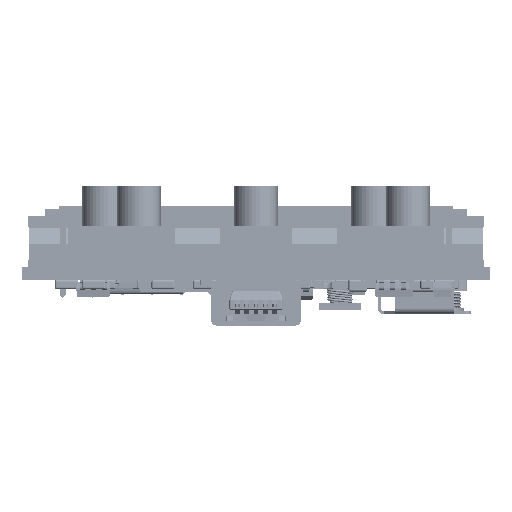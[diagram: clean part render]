
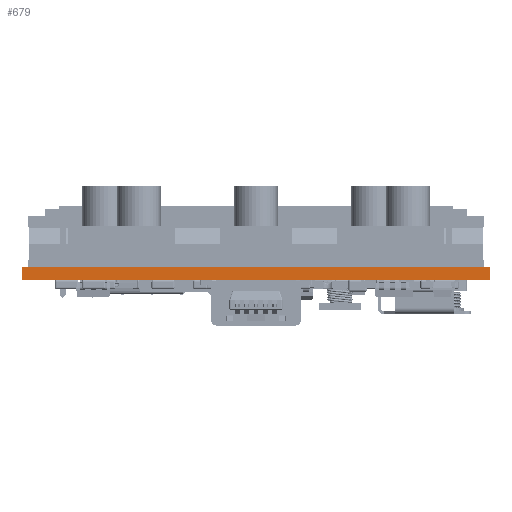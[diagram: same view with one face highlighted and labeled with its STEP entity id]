
A CAD part, front view. The second image highlights one B-rep face of the part: STEP entity #679.
In plain terms, the highlighted planar face has unit normal (0, -1, 0).
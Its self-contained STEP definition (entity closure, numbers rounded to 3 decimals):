
#416 = EDGE_CURVE('',#417,#419,#421,.T.);
#417 = VERTEX_POINT('',#418);
#418 = CARTESIAN_POINT('',(40.,0.,0.));
#419 = VERTEX_POINT('',#420);
#420 = CARTESIAN_POINT('',(40.,0.,1.102));
#421 = SURFACE_CURVE('',#422,(#426,#438),.PCURVE_S1.);
#422 = LINE('',#423,#424);
#423 = CARTESIAN_POINT('',(40.,0.,0.));
#424 = VECTOR('',#425,1.);
#425 = DIRECTION('',(0.,0.,1.));
#426 = PCURVE('',#427,#432);
#427 = PLANE('',#428);
#428 = AXIS2_PLACEMENT_3D('',#429,#430,#431);
#429 = CARTESIAN_POINT('',(40.,0.,0.));
#430 = DIRECTION('',(-1.,0.,0.));
#431 = DIRECTION('',(0.,1.,0.));
#432 = DEFINITIONAL_REPRESENTATION('',(#433),#437);
#433 = LINE('',#434,#435);
#434 = CARTESIAN_POINT('',(0.,0.));
#435 = VECTOR('',#436,1.);
#436 = DIRECTION('',(0.,-1.));
#437 = ( GEOMETRIC_REPRESENTATION_CONTEXT(2) 
PARAMETRIC_REPRESENTATION_CONTEXT() REPRESENTATION_CONTEXT('2D SPACE',''
  ) );
#438 = PCURVE('',#439,#444);
#439 = PLANE('',#440);
#440 = AXIS2_PLACEMENT_3D('',#441,#442,#443);
#441 = CARTESIAN_POINT('',(0.,0.,0.));
#442 = DIRECTION('',(0.,1.,0.));
#443 = DIRECTION('',(1.,0.,0.));
#444 = DEFINITIONAL_REPRESENTATION('',(#445),#449);
#445 = LINE('',#446,#447);
#446 = CARTESIAN_POINT('',(40.,0.));
#447 = VECTOR('',#448,1.);
#448 = DIRECTION('',(0.,-1.));
#449 = ( GEOMETRIC_REPRESENTATION_CONTEXT(2) 
PARAMETRIC_REPRESENTATION_CONTEXT() REPRESENTATION_CONTEXT('2D SPACE',''
  ) );
#467 = PLANE('',#468);
#468 = AXIS2_PLACEMENT_3D('',#469,#470,#471);
#469 = CARTESIAN_POINT('',(40.,0.,1.102));
#470 = DIRECTION('',(0.,0.,-1.));
#471 = DIRECTION('',(-1.,0.,0.));
#521 = PLANE('',#522);
#522 = AXIS2_PLACEMENT_3D('',#523,#524,#525);
#523 = CARTESIAN_POINT('',(40.,0.,0.));
#524 = DIRECTION('',(0.,0.,-1.));
#525 = DIRECTION('',(-1.,0.,0.));
#576 = PLANE('',#577);
#577 = AXIS2_PLACEMENT_3D('',#578,#579,#580);
#578 = CARTESIAN_POINT('',(0.,109.5,0.));
#579 = DIRECTION('',(1.,0.,0.));
#580 = DIRECTION('',(0.,-1.,0.));
#614 = VERTEX_POINT('',#615);
#615 = CARTESIAN_POINT('',(0.,0.,1.102));
#636 = EDGE_CURVE('',#637,#614,#639,.T.);
#637 = VERTEX_POINT('',#638);
#638 = CARTESIAN_POINT('',(0.,0.,0.));
#639 = SURFACE_CURVE('',#640,(#644,#651),.PCURVE_S1.);
#640 = LINE('',#641,#642);
#641 = CARTESIAN_POINT('',(0.,0.,0.));
#642 = VECTOR('',#643,1.);
#643 = DIRECTION('',(0.,0.,1.));
#644 = PCURVE('',#576,#645);
#645 = DEFINITIONAL_REPRESENTATION('',(#646),#650);
#646 = LINE('',#647,#648);
#647 = CARTESIAN_POINT('',(109.5,0.));
#648 = VECTOR('',#649,1.);
#649 = DIRECTION('',(0.,-1.));
#650 = ( GEOMETRIC_REPRESENTATION_CONTEXT(2) 
PARAMETRIC_REPRESENTATION_CONTEXT() REPRESENTATION_CONTEXT('2D SPACE',''
  ) );
#651 = PCURVE('',#439,#652);
#652 = DEFINITIONAL_REPRESENTATION('',(#653),#657);
#653 = LINE('',#654,#655);
#654 = CARTESIAN_POINT('',(0.,0.));
#655 = VECTOR('',#656,1.);
#656 = DIRECTION('',(0.,-1.));
#657 = ( GEOMETRIC_REPRESENTATION_CONTEXT(2) 
PARAMETRIC_REPRESENTATION_CONTEXT() REPRESENTATION_CONTEXT('2D SPACE',''
  ) );
#679 = ADVANCED_FACE('',(#680),#439,.F.);
#680 = FACE_BOUND('',#681,.F.);
#681 = EDGE_LOOP('',(#682,#683,#704,#705));
#682 = ORIENTED_EDGE('',*,*,#636,.T.);
#683 = ORIENTED_EDGE('',*,*,#684,.T.);
#684 = EDGE_CURVE('',#614,#419,#685,.T.);
#685 = SURFACE_CURVE('',#686,(#690,#697),.PCURVE_S1.);
#686 = LINE('',#687,#688);
#687 = CARTESIAN_POINT('',(0.,0.,1.102));
#688 = VECTOR('',#689,1.);
#689 = DIRECTION('',(1.,0.,0.));
#690 = PCURVE('',#439,#691);
#691 = DEFINITIONAL_REPRESENTATION('',(#692),#696);
#692 = LINE('',#693,#694);
#693 = CARTESIAN_POINT('',(0.,-1.102));
#694 = VECTOR('',#695,1.);
#695 = DIRECTION('',(1.,0.));
#696 = ( GEOMETRIC_REPRESENTATION_CONTEXT(2) 
PARAMETRIC_REPRESENTATION_CONTEXT() REPRESENTATION_CONTEXT('2D SPACE',''
  ) );
#697 = PCURVE('',#467,#698);
#698 = DEFINITIONAL_REPRESENTATION('',(#699),#703);
#699 = LINE('',#700,#701);
#700 = CARTESIAN_POINT('',(40.,0.));
#701 = VECTOR('',#702,1.);
#702 = DIRECTION('',(-1.,0.));
#703 = ( GEOMETRIC_REPRESENTATION_CONTEXT(2) 
PARAMETRIC_REPRESENTATION_CONTEXT() REPRESENTATION_CONTEXT('2D SPACE',''
  ) );
#704 = ORIENTED_EDGE('',*,*,#416,.F.);
#705 = ORIENTED_EDGE('',*,*,#706,.F.);
#706 = EDGE_CURVE('',#637,#417,#707,.T.);
#707 = SURFACE_CURVE('',#708,(#712,#719),.PCURVE_S1.);
#708 = LINE('',#709,#710);
#709 = CARTESIAN_POINT('',(0.,0.,0.));
#710 = VECTOR('',#711,1.);
#711 = DIRECTION('',(1.,0.,0.));
#712 = PCURVE('',#439,#713);
#713 = DEFINITIONAL_REPRESENTATION('',(#714),#718);
#714 = LINE('',#715,#716);
#715 = CARTESIAN_POINT('',(0.,0.));
#716 = VECTOR('',#717,1.);
#717 = DIRECTION('',(1.,0.));
#718 = ( GEOMETRIC_REPRESENTATION_CONTEXT(2) 
PARAMETRIC_REPRESENTATION_CONTEXT() REPRESENTATION_CONTEXT('2D SPACE',''
  ) );
#719 = PCURVE('',#521,#720);
#720 = DEFINITIONAL_REPRESENTATION('',(#721),#725);
#721 = LINE('',#722,#723);
#722 = CARTESIAN_POINT('',(40.,0.));
#723 = VECTOR('',#724,1.);
#724 = DIRECTION('',(-1.,0.));
#725 = ( GEOMETRIC_REPRESENTATION_CONTEXT(2) 
PARAMETRIC_REPRESENTATION_CONTEXT() REPRESENTATION_CONTEXT('2D SPACE',''
  ) );
